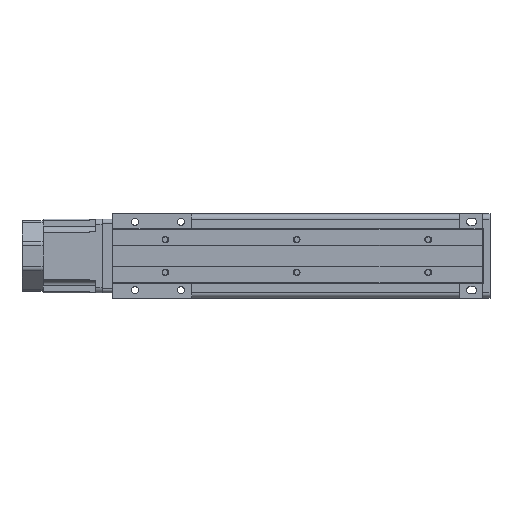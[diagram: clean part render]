
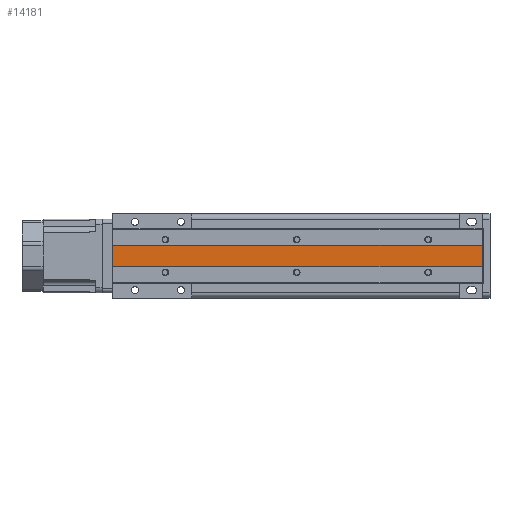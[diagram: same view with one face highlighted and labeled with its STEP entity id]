
A CAD part, front view. The second image highlights one B-rep face of the part: STEP entity #14181.
In plain terms, the highlighted planar face has unit normal (0, -1, 0).
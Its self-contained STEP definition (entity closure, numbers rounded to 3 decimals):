
#610=PLANE('',#23451);
#1984=VERTEX_POINT('',#19683);
#1985=VERTEX_POINT('',#19685);
#1986=VERTEX_POINT('',#19689);
#1987=VERTEX_POINT('',#19691);
#3215=VECTOR('',#15760,1.);
#3217=VECTOR('',#15763,1.);
#3218=VECTOR('',#15764,1.);
#3219=VECTOR('',#15765,1.);
#4725=LINE('',#19684,#3215);
#4727=LINE('',#19688,#3217);
#4728=LINE('',#19690,#3218);
#4729=LINE('',#19692,#3219);
#6400=EDGE_CURVE('',#1985,#1984,#4725,.T.);
#6402=EDGE_CURVE('',#1984,#1986,#4727,.T.);
#6403=EDGE_CURVE('',#1987,#1986,#4728,.T.);
#6404=EDGE_CURVE('',#1987,#1985,#4729,.T.);
#8603=ORIENTED_EDGE('',*,*,#6402,.T.);
#8604=ORIENTED_EDGE('',*,*,#6403,.F.);
#8605=ORIENTED_EDGE('',*,*,#6404,.T.);
#8606=ORIENTED_EDGE('',*,*,#6400,.T.);
#12366=EDGE_LOOP('',(#8603,#8604,#8605,#8606));
#13277=FACE_BOUND('',#12366,.T.);
#14181=ADVANCED_FACE('',(#13277),#610,.T.);
#15760=DIRECTION('',(1.,0.,0.));
#15762=DIRECTION('',(0.,-1.,0.));
#15763=DIRECTION('',(0.,0.,1.));
#15764=DIRECTION('',(1.,0.,0.));
#15765=DIRECTION('',(0.,0.,-1.));
#19683=CARTESIAN_POINT('',(229.,0.3,-8.));
#19684=CARTESIAN_POINT('',(-52.,0.3,-8.));
#19685=CARTESIAN_POINT('',(-52.,0.3,-8.));
#19687=CARTESIAN_POINT('',(-52.,0.3,-8.));
#19688=CARTESIAN_POINT('',(229.,0.3,7.7));
#19689=CARTESIAN_POINT('',(229.,0.3,7.7));
#19690=CARTESIAN_POINT('',(-52.,0.3,7.7));
#19691=CARTESIAN_POINT('',(-52.,0.3,7.7));
#19692=CARTESIAN_POINT('',(-52.,0.3,7.7));
#23451=AXIS2_PLACEMENT_3D('',#19687,#15762,$);
